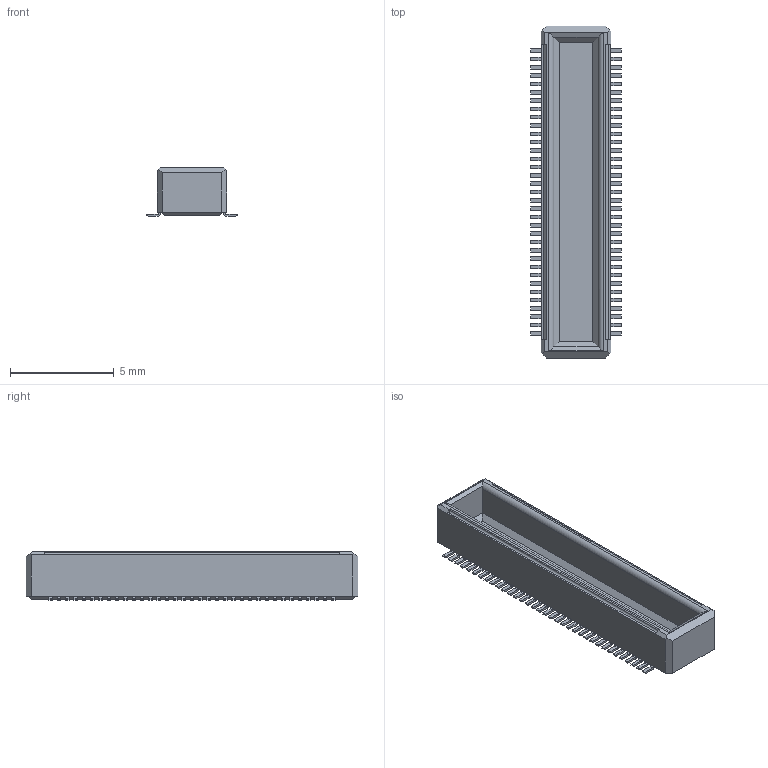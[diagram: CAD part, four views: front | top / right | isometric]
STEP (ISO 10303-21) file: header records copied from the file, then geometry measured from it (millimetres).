
FILE_DESCRIPTION (( 'STEP AP214' ), '1' );
FILE_NAME ('105846070000.STEP', '2023-03-02T06:39:22', ( '' ), ( '' ), 'SwSTEP 2.0', 'SolidWorks 2021', '' );
FILE_SCHEMA (( 'AUTOMOTIVE_DESIGN' ));
Length unit declared in the file: millimetre
Products named in the file (1): 105846070000
Bounding box: 4.35 x 15.97 x 2.35 mm (x, y, z)
Volume: 61.4 mm3; surface area: 271.1 mm2
Topology: 1 solids, 1 shells, 744 faces, 2001 edges, 1261 vertices
Faces by surface type: plane 528, cylinder 216
Entity records: 22994 total; most frequent: CARTESIAN_POINT 4337, ORIENTED_EDGE 4002, DIRECTION 3742, EDGE_CURVE 2001, LINE 1530, VECTOR 1530, VERTEX_POINT 1261, AXIS2_PLACEMENT_3D 1106
